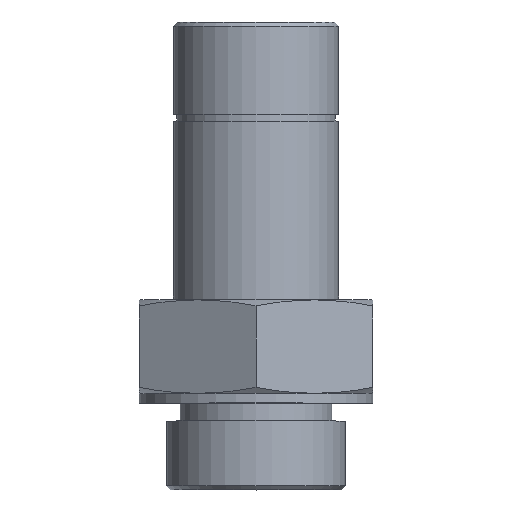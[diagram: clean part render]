
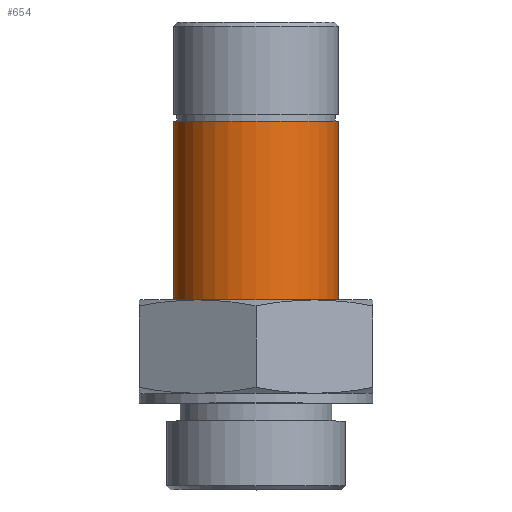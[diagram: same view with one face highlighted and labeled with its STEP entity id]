
A CAD part, top view. The second image highlights one B-rep face of the part: STEP entity #654.
In plain terms, the highlighted cylindrical face has radius 6 mm (diameter 12 mm), a full revolution.
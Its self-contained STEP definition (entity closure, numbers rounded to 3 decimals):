
#124=FACE_OUTER_BOUND('',#177,.T.);
#177=EDGE_LOOP('',(#527,#528,#529,#530));
#216=LINE('',#1185,#233);
#233=VECTOR('',#987,6.);
#277=CIRCLE('',#810,6.);
#278=CIRCLE('',#811,6.);
#324=VERTEX_POINT('',#1182);
#325=VERTEX_POINT('',#1184);
#395=EDGE_CURVE('',#324,#324,#277,.T.);
#396=EDGE_CURVE('',#324,#325,#216,.T.);
#397=EDGE_CURVE('',#325,#325,#278,.T.);
#527=ORIENTED_EDGE('',*,*,#395,.F.);
#528=ORIENTED_EDGE('',*,*,#396,.T.);
#529=ORIENTED_EDGE('',*,*,#397,.F.);
#530=ORIENTED_EDGE('',*,*,#396,.F.);
#632=CYLINDRICAL_SURFACE('',#809,6.);
#654=ADVANCED_FACE('',(#124),#632,.T.);
#809=AXIS2_PLACEMENT_3D('',#1181,#983,#984);
#810=AXIS2_PLACEMENT_3D('',#1183,#985,#986);
#811=AXIS2_PLACEMENT_3D('',#1186,#988,#989);
#983=DIRECTION('center_axis',(0.,1.,0.));
#984=DIRECTION('ref_axis',(1.,0.,0.));
#985=DIRECTION('center_axis',(0.,1.,0.));
#986=DIRECTION('ref_axis',(1.,0.,0.));
#987=DIRECTION('',(0.,-1.,0.));
#988=DIRECTION('center_axis',(0.,-1.,0.));
#989=DIRECTION('ref_axis',(1.,0.,0.));
#1181=CARTESIAN_POINT('Origin',(0.,6.8,0.));
#1182=CARTESIAN_POINT('',(-6.,19.8,0.));
#1183=CARTESIAN_POINT('Origin',(0.,19.8,0.));
#1184=CARTESIAN_POINT('',(-6.,6.8,0.));
#1185=CARTESIAN_POINT('',(-6.,6.8,0.));
#1186=CARTESIAN_POINT('Origin',(0.,6.8,0.));
